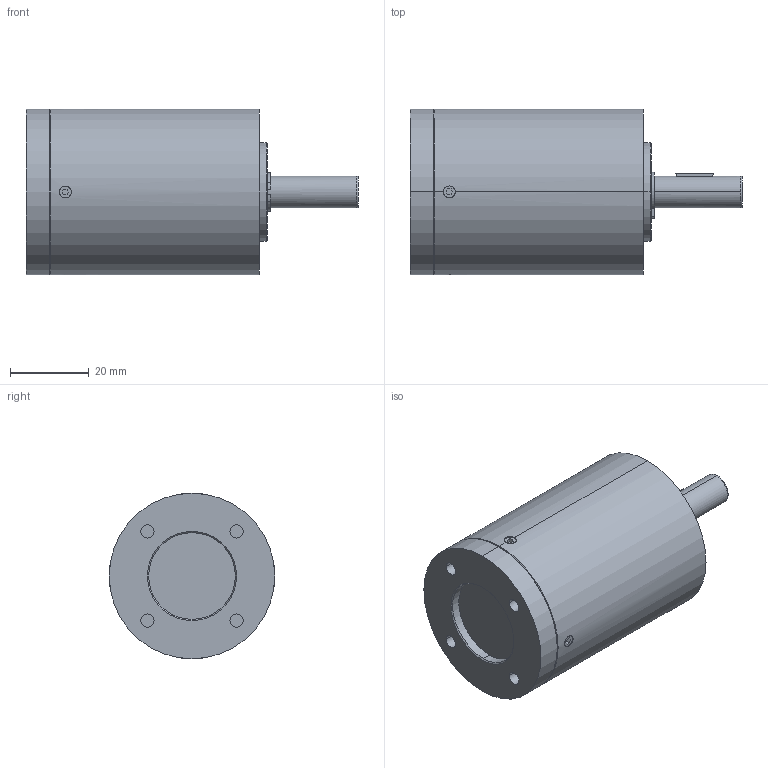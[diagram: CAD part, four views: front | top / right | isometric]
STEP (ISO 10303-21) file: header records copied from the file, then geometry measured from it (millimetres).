
FILE_DESCRIPTION((''),'2;1');
FILE_NAME('PLG42K_2ST_8X25','2005-08-26T',('Andrej.Schneider'),(''),'PRO/ENGINEER BY PARAMETRIC TECHNOLOGY CORPORATION, 2003490','PRO/ENGINEER BY PARAMETRIC TECHNOLOGY CORPORATION, 2003490','');
FILE_SCHEMA(('AUTOMOTIVE_DESIGN_CC2 { 1 2 10303 214 -1 1 5 2 }'));
Length unit declared in the file: millimetre
Products named in the file (1): PLG42K_2ST_8X25
Bounding box: 84.2 x 42 x 42 mm (x, y, z)
Volume: 78483.5 mm3; surface area: 16512.3 mm2
Topology: 1 solids, 9 shells, 241 faces, 596 edges, 380 vertices
Faces by surface type: cylinder 131, plane 68, cone 40, torus 2
Entity records: 8901 total; most frequent: DIRECTION 1356, CARTESIAN_POINT 1308, ORIENTED_EDGE 1128, EDGE_CURVE 580, AXIS2_PLACEMENT_3D 544, VERTEX_POINT 380, CIRCLE 302, EDGE_LOOP 280
